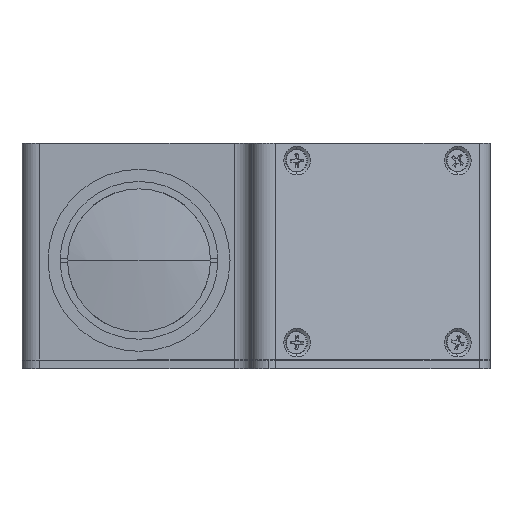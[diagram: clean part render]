
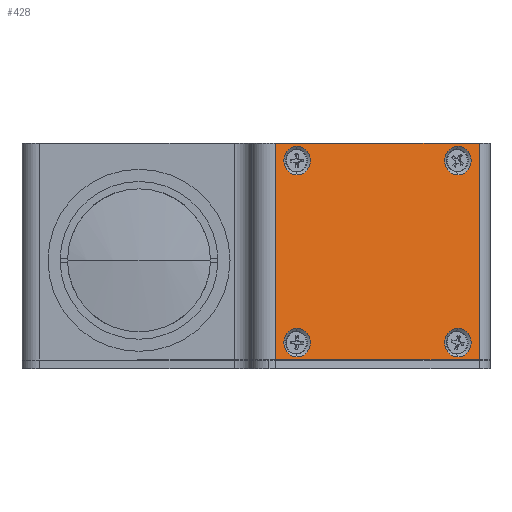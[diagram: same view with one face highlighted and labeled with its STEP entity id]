
A CAD part, left-side view. The second image highlights one B-rep face of the part: STEP entity #428.
In plain terms, the highlighted planar face has unit normal (-0.927, -0.375, 0).
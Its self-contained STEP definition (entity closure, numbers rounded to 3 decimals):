
#33 = ORIENTED_EDGE ( 'NONE', *, *, #11784, .F. ) ;
#153 = LINE ( 'NONE', #2165, #4805 ) ;
#428 = ADVANCED_FACE ( 'NONE', ( #11296, #8227, #5179, #14690, #14323 ), #617, .T. ) ;
#433 = ORIENTED_EDGE ( 'NONE', *, *, #6864, .F. ) ;
#438 = DIRECTION ( 'NONE',  ( -0.927, -0.375, 0. ) ) ;
#493 = AXIS2_PLACEMENT_3D ( 'NONE', #12429, #5561, #13589 ) ;
#617 = PLANE ( 'NONE',  #13040 ) ;
#785 = EDGE_LOOP ( 'NONE', ( #12084, #33 ) ) ;
#893 = CIRCLE ( 'NONE', #7376, 3.3 ) ;
#927 = VERTEX_POINT ( 'NONE', #14223 ) ;
#1200 = DIRECTION ( 'NONE',  ( -0.927, -0.375, 0. ) ) ;
#1203 = EDGE_LOOP ( 'NONE', ( #433, #13098 ) ) ;
#1210 = DIRECTION ( 'NONE',  ( -0.927, -0.375, 0. ) ) ;
#1239 = CIRCLE ( 'NONE', #493, 3.3 ) ;
#1293 = CIRCLE ( 'NONE', #5523, 3.3 ) ;
#1294 = EDGE_CURVE ( 'NONE', #1321, #3313, #6862, .T. ) ;
#1321 = VERTEX_POINT ( 'NONE', #1492 ) ;
#1468 = ORIENTED_EDGE ( 'NONE', *, *, #10210, .F. ) ;
#1485 = EDGE_CURVE ( 'NONE', #5424, #9147, #13503, .T. ) ;
#1492 = CARTESIAN_POINT ( 'NONE',  ( 25.939, -36.495, 26.3 ) ) ;
#1520 = VERTEX_POINT ( 'NONE', #4136 ) ;
#1775 = DIRECTION ( 'NONE',  ( 0., 0., 1. ) ) ;
#1798 = CARTESIAN_POINT ( 'NONE',  ( 45.419, -84.709, -23. ) ) ;
#1998 = EDGE_CURVE ( 'NONE', #13577, #10466, #12404, .T. ) ;
#2018 = ORIENTED_EDGE ( 'NONE', *, *, #13533, .T. ) ;
#2165 = CARTESIAN_POINT ( 'NONE',  ( 45.419, -84.709, 27. ) ) ;
#2423 = ORIENTED_EDGE ( 'NONE', *, *, #1998, .F. ) ;
#2558 = VECTOR ( 'NONE', #11256, 1000. ) ;
#2632 = CIRCLE ( 'NONE', #10296, 3.3 ) ;
#2826 = EDGE_LOOP ( 'NONE', ( #7439, #2423 ) ) ;
#3019 = CARTESIAN_POINT ( 'NONE',  ( 25.939, -36.495, -15.7 ) ) ;
#3074 = ORIENTED_EDGE ( 'NONE', *, *, #1485, .F. ) ;
#3274 = CARTESIAN_POINT ( 'NONE',  ( 25.939, -36.495, -19. ) ) ;
#3313 = VERTEX_POINT ( 'NONE', #6088 ) ;
#3325 = CARTESIAN_POINT ( 'NONE',  ( 42.91, -78.498, -23. ) ) ;
#3336 = VERTEX_POINT ( 'NONE', #6146 ) ;
#3504 = EDGE_LOOP ( 'NONE', ( #4003, #6700 ) ) ;
#3769 = CARTESIAN_POINT ( 'NONE',  ( 23.928, -31.516, -23. ) ) ;
#3857 = DIRECTION ( 'NONE',  ( 0., 0., -1. ) ) ;
#3941 = DIRECTION ( 'NONE',  ( -0.927, -0.375, 0. ) ) ;
#3973 = VECTOR ( 'NONE', #12059, 1000. ) ;
#4003 = ORIENTED_EDGE ( 'NONE', *, *, #12811, .F. ) ;
#4014 = CARTESIAN_POINT ( 'NONE',  ( 33.562, -55.363, 2. ) ) ;
#4021 = VERTEX_POINT ( 'NONE', #12242 ) ;
#4136 = CARTESIAN_POINT ( 'NONE',  ( 25.939, -36.495, -22.3 ) ) ;
#4429 = DIRECTION ( 'NONE',  ( 0., 0., 1. ) ) ;
#4805 = VECTOR ( 'NONE', #8999, 1000. ) ;
#5179 = FACE_BOUND ( 'NONE', #3504, .T. ) ;
#5424 = VERTEX_POINT ( 'NONE', #3325 ) ;
#5454 = VECTOR ( 'NONE', #3857, 1000. ) ;
#5506 = EDGE_CURVE ( 'NONE', #10466, #13577, #1293, .T. ) ;
#5523 = AXIS2_PLACEMENT_3D ( 'NONE', #8070, #1210, #9208 ) ;
#5561 = DIRECTION ( 'NONE',  ( -0.927, -0.375, 0. ) ) ;
#5795 = DIRECTION ( 'NONE',  ( -0.927, -0.375, 0. ) ) ;
#5997 = CARTESIAN_POINT ( 'NONE',  ( 25.939, -36.495, 23. ) ) ;
#6088 = CARTESIAN_POINT ( 'NONE',  ( 25.939, -36.495, 19.7 ) ) ;
#6105 = VERTEX_POINT ( 'NONE', #10347 ) ;
#6146 = CARTESIAN_POINT ( 'NONE',  ( 40.923, -73.583, 19.7 ) ) ;
#6525 = CIRCLE ( 'NONE', #7830, 3.3 ) ;
#6548 = AXIS2_PLACEMENT_3D ( 'NONE', #5997, #14018, #7155 ) ;
#6665 = AXIS2_PLACEMENT_3D ( 'NONE', #7301, #438, #8430 ) ;
#6700 = ORIENTED_EDGE ( 'NONE', *, *, #11286, .F. ) ;
#6862 = CIRCLE ( 'NONE', #6548, 3.3 ) ;
#6864 = EDGE_CURVE ( 'NONE', #927, #3336, #893, .T. ) ;
#7155 = DIRECTION ( 'NONE',  ( 0., 0., 1. ) ) ;
#7301 = CARTESIAN_POINT ( 'NONE',  ( 25.939, -36.495, 23. ) ) ;
#7376 = AXIS2_PLACEMENT_3D ( 'NONE', #8061, #1200, #9198 ) ;
#7439 = ORIENTED_EDGE ( 'NONE', *, *, #5506, .F. ) ;
#7625 = CIRCLE ( 'NONE', #6665, 3.3 ) ;
#7806 = CARTESIAN_POINT ( 'NONE',  ( 42.91, -78.498, 2. ) ) ;
#7830 = AXIS2_PLACEMENT_3D ( 'NONE', #10824, #3941, #11969 ) ;
#8061 = CARTESIAN_POINT ( 'NONE',  ( 40.923, -73.583, 23. ) ) ;
#8070 = CARTESIAN_POINT ( 'NONE',  ( 40.923, -73.583, -19. ) ) ;
#8227 = FACE_BOUND ( 'NONE', #2826, .T. ) ;
#8430 = DIRECTION ( 'NONE',  ( 0., 0., 1. ) ) ;
#8620 = DIRECTION ( 'NONE',  ( -0.927, -0.375, 0. ) ) ;
#8999 = DIRECTION ( 'NONE',  ( 0.375, -0.927, 0. ) ) ;
#9147 = VERTEX_POINT ( 'NONE', #3769 ) ;
#9198 = DIRECTION ( 'NONE',  ( 0., 0., 1. ) ) ;
#9208 = DIRECTION ( 'NONE',  ( 0., 0., 1. ) ) ;
#9557 = CARTESIAN_POINT ( 'NONE',  ( 23.928, -31.516, 2. ) ) ;
#9572 = CARTESIAN_POINT ( 'NONE',  ( 40.923, -73.583, -15.7 ) ) ;
#9617 = EDGE_CURVE ( 'NONE', #3336, #927, #1239, .T. ) ;
#10136 = CARTESIAN_POINT ( 'NONE',  ( 40.923, -73.583, -22.3 ) ) ;
#10210 = EDGE_CURVE ( 'NONE', #4021, #6105, #153, .T. ) ;
#10296 = AXIS2_PLACEMENT_3D ( 'NONE', #3274, #11283, #4429 ) ;
#10347 = CARTESIAN_POINT ( 'NONE',  ( 42.91, -78.498, 27. ) ) ;
#10466 = VERTEX_POINT ( 'NONE', #9572 ) ;
#10824 = CARTESIAN_POINT ( 'NONE',  ( 25.939, -36.495, -19. ) ) ;
#10966 = LINE ( 'NONE', #7806, #2558 ) ;
#11256 = DIRECTION ( 'NONE',  ( 0., 0., 1. ) ) ;
#11283 = DIRECTION ( 'NONE',  ( -0.927, -0.375, 0. ) ) ;
#11286 = EDGE_CURVE ( 'NONE', #1520, #12484, #2632, .T. ) ;
#11296 = FACE_BOUND ( 'NONE', #1203, .T. ) ;
#11784 = EDGE_CURVE ( 'NONE', #3313, #1321, #7625, .T. ) ;
#11902 = LINE ( 'NONE', #9557, #5454 ) ;
#11969 = DIRECTION ( 'NONE',  ( 0., 0., 1. ) ) ;
#12059 = DIRECTION ( 'NONE',  ( -0.375, 0.927, 0. ) ) ;
#12084 = ORIENTED_EDGE ( 'NONE', *, *, #1294, .F. ) ;
#12227 = ORIENTED_EDGE ( 'NONE', *, *, #12348, .T. ) ;
#12242 = CARTESIAN_POINT ( 'NONE',  ( 23.928, -31.516, 27. ) ) ;
#12348 = EDGE_CURVE ( 'NONE', #4021, #9147, #11902, .T. ) ;
#12404 = CIRCLE ( 'NONE', #14408, 3.3 ) ;
#12429 = CARTESIAN_POINT ( 'NONE',  ( 40.923, -73.583, 23. ) ) ;
#12484 = VERTEX_POINT ( 'NONE', #3019 ) ;
#12661 = CARTESIAN_POINT ( 'NONE',  ( 40.923, -73.583, -19. ) ) ;
#12811 = EDGE_CURVE ( 'NONE', #12484, #1520, #6525, .T. ) ;
#13040 = AXIS2_PLACEMENT_3D ( 'NONE', #4014, #8620, #1775 ) ;
#13098 = ORIENTED_EDGE ( 'NONE', *, *, #9617, .F. ) ;
#13503 = LINE ( 'NONE', #1798, #3973 ) ;
#13533 = EDGE_CURVE ( 'NONE', #5424, #6105, #10966, .T. ) ;
#13577 = VERTEX_POINT ( 'NONE', #10136 ) ;
#13589 = DIRECTION ( 'NONE',  ( 0., 0., 1. ) ) ;
#13651 = EDGE_LOOP ( 'NONE', ( #3074, #2018, #1468, #12227 ) ) ;
#13820 = DIRECTION ( 'NONE',  ( 0., 0., 1. ) ) ;
#14018 = DIRECTION ( 'NONE',  ( -0.927, -0.375, 0. ) ) ;
#14223 = CARTESIAN_POINT ( 'NONE',  ( 40.923, -73.583, 26.3 ) ) ;
#14323 = FACE_OUTER_BOUND ( 'NONE', #13651, .T. ) ;
#14408 = AXIS2_PLACEMENT_3D ( 'NONE', #12661, #5795, #13820 ) ;
#14690 = FACE_BOUND ( 'NONE', #785, .T. ) ;
